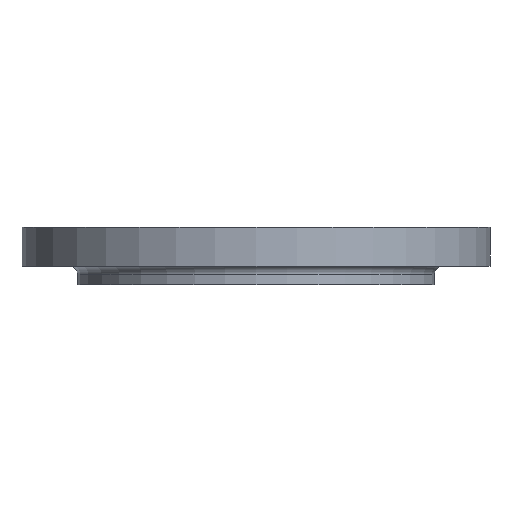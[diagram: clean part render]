
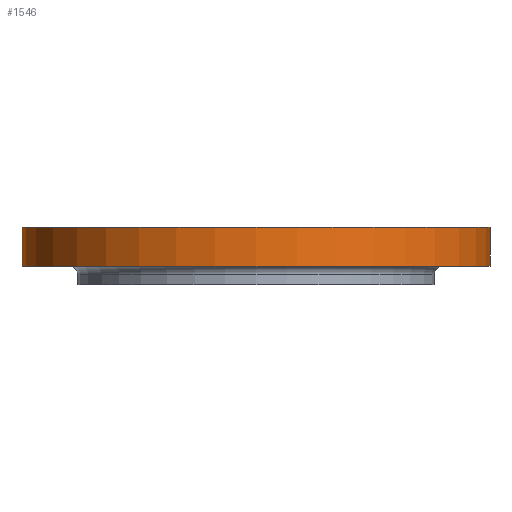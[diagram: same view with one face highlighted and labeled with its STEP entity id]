
A CAD part, front view. The second image highlights one B-rep face of the part: STEP entity #1546.
In plain terms, the highlighted cylindrical face has radius 342.5 mm (diameter 685 mm), a partial arc.
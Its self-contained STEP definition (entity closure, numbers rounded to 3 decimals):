
#86 = DIRECTION ( 'NONE',  ( 1., 0., 0. ) ) ;
#87 = DIRECTION ( 'NONE',  ( 0., 0., 1. ) ) ;
#88 = CARTESIAN_POINT ( 'NONE',  ( 0., 0., 0. ) ) ;
#213 = CARTESIAN_POINT ( 'NONE',  ( -342.5, 0., 0. ) ) ;
#362 = EDGE_CURVE ( 'NONE', #1554, #868, #647, .T. ) ;
#373 = CIRCLE ( 'NONE', #380, 342.5 ) ;
#380 = AXIS2_PLACEMENT_3D ( 'NONE', #88, #87, #86 ) ;
#432 = CARTESIAN_POINT ( 'NONE',  ( 342.5, 0., 0. ) ) ;
#487 = CARTESIAN_POINT ( 'NONE',  ( -342.5, 0., -57. ) ) ;
#493 = AXIS2_PLACEMENT_3D ( 'NONE', #575, #574, #573 ) ;
#528 = LINE ( 'NONE', #1275, #1537 ) ;
#543 = AXIS2_PLACEMENT_3D ( 'NONE', #741, #1402, #1799 ) ;
#573 = DIRECTION ( 'NONE',  ( 1., 0., 0. ) ) ;
#574 = DIRECTION ( 'NONE',  ( 0., 0., 1. ) ) ;
#575 = CARTESIAN_POINT ( 'NONE',  ( 0., 0., -57. ) ) ;
#644 = DIRECTION ( 'NONE',  ( 0., 0., 1. ) ) ;
#645 = CARTESIAN_POINT ( 'NONE',  ( 342.5, 0., -150. ) ) ;
#647 = LINE ( 'NONE', #645, #1188 ) ;
#661 = EDGE_CURVE ( 'NONE', #807, #1554, #1703, .T. ) ;
#741 = CARTESIAN_POINT ( 'NONE',  ( 0., 0., -150. ) ) ;
#807 = VERTEX_POINT ( 'NONE', #487 ) ;
#868 = VERTEX_POINT ( 'NONE', #432 ) ;
#1049 = ORIENTED_EDGE ( 'NONE', *, *, #362, .T. ) ;
#1116 = ORIENTED_EDGE ( 'NONE', *, *, #1386, .F. ) ;
#1125 = ORIENTED_EDGE ( 'NONE', *, *, #1508, .F. ) ;
#1188 = VECTOR ( 'NONE', #644, 1000. ) ;
#1198 = EDGE_LOOP ( 'NONE', ( #1125, #1694, #1049, #1116 ) ) ;
#1275 = CARTESIAN_POINT ( 'NONE',  ( -342.5, 0., -150. ) ) ;
#1294 = CARTESIAN_POINT ( 'NONE',  ( 342.5, 0., -57. ) ) ;
#1386 = EDGE_CURVE ( 'NONE', #1578, #868, #373, .T. ) ;
#1402 = DIRECTION ( 'NONE',  ( 0., 0., 1. ) ) ;
#1508 = EDGE_CURVE ( 'NONE', #807, #1578, #528, .T. ) ;
#1537 = VECTOR ( 'NONE', #1769, 1000. ) ;
#1546 = ADVANCED_FACE ( 'NONE', ( #1547 ), #1826, .T. ) ;
#1547 = FACE_OUTER_BOUND ( 'NONE', #1198, .T. ) ;
#1554 = VERTEX_POINT ( 'NONE', #1294 ) ;
#1578 = VERTEX_POINT ( 'NONE', #213 ) ;
#1694 = ORIENTED_EDGE ( 'NONE', *, *, #661, .T. ) ;
#1703 = CIRCLE ( 'NONE', #493, 342.5 ) ;
#1769 = DIRECTION ( 'NONE',  ( 0., 0., 1. ) ) ;
#1799 = DIRECTION ( 'NONE',  ( 1., 0., 0. ) ) ;
#1826 = CYLINDRICAL_SURFACE ( 'NONE', #543, 342.5 ) ;
